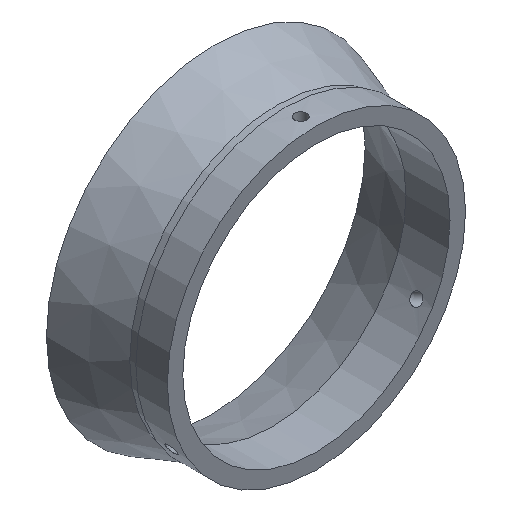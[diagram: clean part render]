
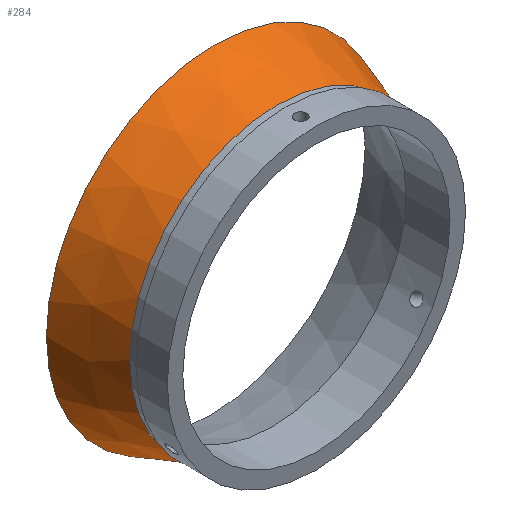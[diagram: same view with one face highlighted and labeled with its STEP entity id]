
A CAD part, isometric view. The second image highlights one B-rep face of the part: STEP entity #284.
In plain terms, the highlighted conical face has half-angle 18.86 degrees and reference radius 37.501 mm.
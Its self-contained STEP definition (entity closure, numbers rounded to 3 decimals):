
#18=CONICAL_SURFACE('',#331,37.501,0.329);
#27=CIRCLE('',#313,37.501);
#28=CIRCLE('',#314,37.501);
#39=CIRCLE('',#329,42.9);
#40=CIRCLE('',#330,42.9);
#49=FACE_OUTER_BOUND('',#64,.T.);
#64=EDGE_LOOP('',(#244,#245,#246,#247,#248,#249));
#79=LINE('',#687,#90);
#90=VECTOR('',#396,37.501);
#121=VERTEX_POINT('',#647);
#122=VERTEX_POINT('',#649);
#133=VERTEX_POINT('',#681);
#134=VERTEX_POINT('',#682);
#155=EDGE_CURVE('',#121,#122,#27,.T.);
#156=EDGE_CURVE('',#122,#121,#28,.T.);
#172=EDGE_CURVE('',#133,#134,#39,.T.);
#173=EDGE_CURVE('',#134,#133,#40,.T.);
#175=EDGE_CURVE('',#133,#122,#79,.T.);
#244=ORIENTED_EDGE('',*,*,#172,.T.);
#245=ORIENTED_EDGE('',*,*,#173,.T.);
#246=ORIENTED_EDGE('',*,*,#175,.T.);
#247=ORIENTED_EDGE('',*,*,#155,.F.);
#248=ORIENTED_EDGE('',*,*,#156,.F.);
#249=ORIENTED_EDGE('',*,*,#175,.F.);
#284=ADVANCED_FACE('',(#49),#18,.T.);
#313=AXIS2_PLACEMENT_3D('',#650,#352,#353);
#314=AXIS2_PLACEMENT_3D('',#651,#354,#355);
#329=AXIS2_PLACEMENT_3D('',#683,#389,#390);
#330=AXIS2_PLACEMENT_3D('',#684,#391,#392);
#331=AXIS2_PLACEMENT_3D('',#686,#394,#395);
#352=DIRECTION('center_axis',(0.,-1.,0.));
#353=DIRECTION('ref_axis',(0.,0.,-1.));
#354=DIRECTION('center_axis',(0.,-1.,0.));
#355=DIRECTION('ref_axis',(0.,0.,-1.));
#389=DIRECTION('center_axis',(0.,-1.,0.));
#390=DIRECTION('ref_axis',(0.,0.,-1.));
#391=DIRECTION('center_axis',(0.,-1.,0.));
#392=DIRECTION('ref_axis',(0.,0.,-1.));
#394=DIRECTION('center_axis',(0.,1.,0.));
#395=DIRECTION('ref_axis',(0.,0.,1.));
#396=DIRECTION('',(0.,-0.946,0.323));
#647=CARTESIAN_POINT('',(0.,10.,37.501));
#649=CARTESIAN_POINT('',(0.,10.,-37.501));
#650=CARTESIAN_POINT('Origin',(0.,10.,0.));
#651=CARTESIAN_POINT('Origin',(0.,10.,0.));
#681=CARTESIAN_POINT('',(0.,25.804,-42.9));
#682=CARTESIAN_POINT('',(0.,25.804,42.9));
#683=CARTESIAN_POINT('Origin',(0.,25.804,0.));
#684=CARTESIAN_POINT('Origin',(0.,25.804,0.));
#686=CARTESIAN_POINT('Origin',(0.,10.,0.));
#687=CARTESIAN_POINT('',(0.,10.,-37.501));
